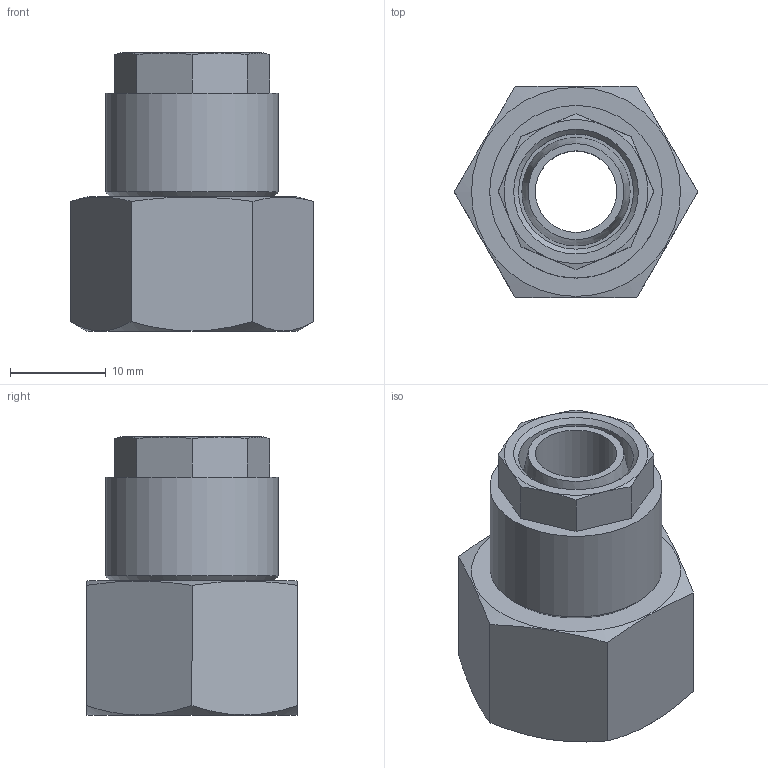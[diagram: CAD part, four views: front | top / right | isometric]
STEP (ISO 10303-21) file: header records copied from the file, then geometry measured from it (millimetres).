
FILE_DESCRIPTION(/* description */ (''),/* implementation_level */ '2;1');
FILE_NAME(/* name */ '10313_302_1210_G38_26.06.17',/* time_stamp */ '2017-06-26T15:59:11+02:00',/* author */ (''),/* organization */ (''),/* preprocessor_version */ 'ST-DEVELOPER v16.5',/* originating_system */ 'HiCAD 2016 2102.2 Build 618',/* authorisation */ '');
FILE_SCHEMA (('AUTOMOTIVE_DESIGN { 1 0 10303 214 1 1 1 1 }'));
Length unit declared in the file: millimetre
Products named in the file (3): Root; 10313; 17008
Assembly tree (2 placements, depth 2):
  Root
    10313
    17008
Bounding box: 25.4 x 22 x 29 mm (x, y, z)
Volume: 6098 mm3; surface area: 5068.4 mm2
Topology: 2 solids, 2 shells, 55 faces, 121 edges, 75 vertices
Faces by surface type: cone 23, plane 23, cylinder 8, torus 1
Full cylindrical faces by diameter (mm): 8.5 x1, 10.5 x1, 12 x1, 14.5 x1, 14.73 x1, 14.95 x1, 16 x1, 18 x1
Entity records: 2387 total; most frequent: DIRECTION 286, CARTESIAN_POINT 221, PRESENTATION_STYLE_ASSIGNMENT 192, COLOUR_RGB 191, DRAUGHTING_PRE_DEFINED_CURVE_FONT 190, CURVE_STYLE 190, OVER_RIDING_STYLED_ITEM 190, ORIENTED_EDGE 190
